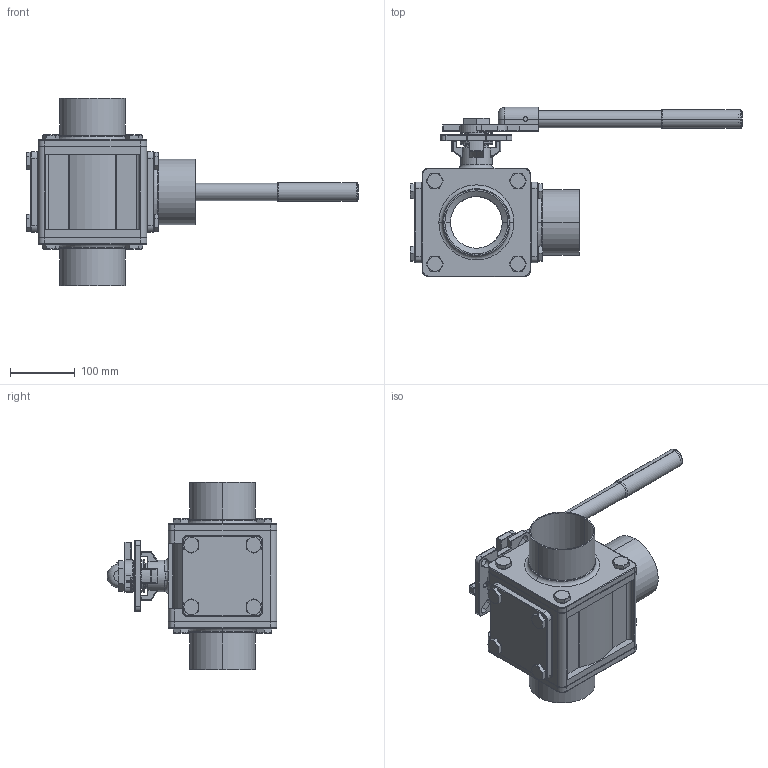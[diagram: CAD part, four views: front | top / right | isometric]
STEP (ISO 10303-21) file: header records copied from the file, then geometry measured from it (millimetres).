
FILE_DESCRIPTION (( 'STEP AP203' ), '1' );
FILE_NAME ('E93WWW-64.0-T.STEP', '2019-07-02T02:24:01', ( '' ), ( '' ), 'SwSTEP 2.0', 'SolidWorks 2014', '' );
FILE_SCHEMA (( 'CONFIG_CONTROL_DESIGN' ));
Length unit declared in the file: millimetre
Products named in the file (24): 4.SEAT1-4.0; 14.HANDLE3.0-4.0-2; 1.3WAY-BODY4.0; 3.3WAY-BALL-4.0-T; 13.STEM3.0-4.0; 16.BOLT4.0; 8.STEM PACKING3.0-4.0; 20.SEAT BACK4.0; 9.RING3.0-4.0; E93WWW-64.0-T; 17.LOCKING TAB3.0-4.0; 14.HANDLE3.0-4.0-1; 14.HANDLE2.5-4.0-3; 22.SEAT2-4.0; 15.SPRING WASHER4.0; 2.3WAY-CAP-W-4.0S; 21.PLAIN WASHER3.0-4.0; 7.O-RING3.0-4.0; 10.BEVEL WASHER3.0-4.0; 6.THRUST WASHER3.0-4.0; 12.3WAY-NUT3.0-4.0; 18.THINNER NUT3.0-4.0; 2.3WAY-CAP-W-4.0B; 19.3WAY-CAP4.0
Assembly tree (57 placements, depth 2):
  E93WWW-64.0-T
    1.3WAY-BODY4.0
    4.SEAT1-4.0  x2
    20.SEAT BACK4.0
    22.SEAT2-4.0  x2
    13.STEM3.0-4.0
    6.THRUST WASHER3.0-4.0
    7.O-RING3.0-4.0
    19.3WAY-CAP4.0
    15.SPRING WASHER4.0  x16
    16.BOLT4.0  x16
    8.STEM PACKING3.0-4.0
    9.RING3.0-4.0
    10.BEVEL WASHER3.0-4.0  x2
    18.THINNER NUT3.0-4.0
    17.LOCKING TAB3.0-4.0
    21.PLAIN WASHER3.0-4.0
    14.HANDLE2.5-4.0-3
    14.HANDLE3.0-4.0-1
    14.HANDLE3.0-4.0-2
    12.3WAY-NUT3.0-4.0
    3.3WAY-BALL-4.0-T
    2.3WAY-CAP-W-4.0B  x2
    2.3WAY-CAP-W-4.0S
Bounding box: 513.7 x 262.39 x 290 mm (x, y, z)
Volume: 3862131.5 mm3; surface area: 947959.2 mm2
Topology: 58 solids, 58 shells, 1506 faces, 3407 edges, 2018 vertices
Faces by surface type: cylinder 554, plane 403, cone 247, torus 188, sphere 58, bspline 56
Entity records: 35548 total; most frequent: CARTESIAN_POINT 8375, DIRECTION 5438, ORIENTED_EDGE 4708, EDGE_CURVE 2354, AXIS2_PLACEMENT_3D 2295, VERTEX_POINT 1396, CIRCLE 1266, EDGE_LOOP 1136
